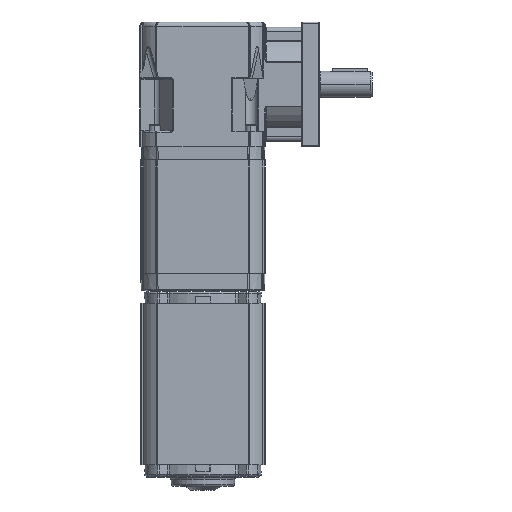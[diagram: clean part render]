
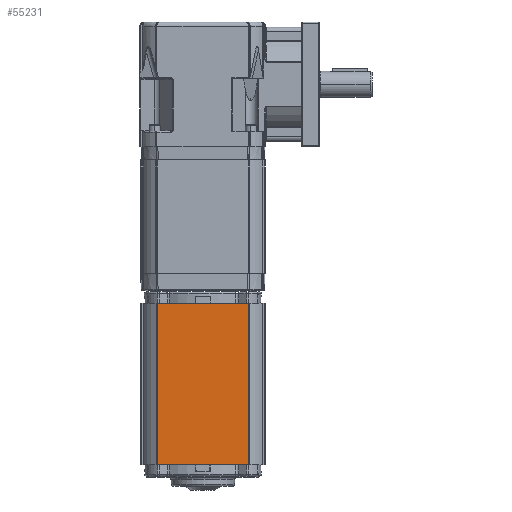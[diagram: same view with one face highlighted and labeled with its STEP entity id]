
A CAD part, front view. The second image highlights one B-rep face of the part: STEP entity #55231.
In plain terms, the highlighted planar face has unit normal (0, -1, 0).
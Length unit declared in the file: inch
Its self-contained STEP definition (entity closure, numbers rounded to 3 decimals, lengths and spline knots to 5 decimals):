
#364 = CARTESIAN_POINT ( 'NONE',  ( 1.325, -1.7765, -4.078 ) ) ;
#2861 = CARTESIAN_POINT ( 'NONE',  ( 1.305, -1.7765, -10.414 ) ) ;
#9013 = CARTESIAN_POINT ( 'NONE',  ( -1.305, -1.7765, -10.414 ) ) ;
#10897 = EDGE_CURVE ( 'NONE', #41482, #34389, #62521, .T. ) ;
#10979 = EDGE_CURVE ( 'NONE', #41482, #35695, #60285, .T. ) ;
#11399 = EDGE_CURVE ( 'NONE', #24420, #35695, #43303, .T. ) ;
#14236 = CARTESIAN_POINT ( 'NONE',  ( -1.305, -1.7765, -8.683 ) ) ;
#15257 = PLANE ( 'NONE',  #39572 ) ;
#16655 = DIRECTION ( 'NONE',  ( 1., 0., 0. ) ) ;
#20886 = CARTESIAN_POINT ( 'NONE',  ( 1.325, -1.7765, -10.414 ) ) ;
#22743 = VECTOR ( 'NONE', #16655, 39.37008 ) ;
#24299 = LINE ( 'NONE', #364, #22743 ) ;
#24420 = VERTEX_POINT ( 'NONE', #59535 ) ;
#24732 = CARTESIAN_POINT ( 'NONE',  ( 1.305, -1.7765, -8.683 ) ) ;
#26010 = DIRECTION ( 'NONE',  ( 0., 0., -1. ) ) ;
#29350 = ORIENTED_EDGE ( 'NONE', *, *, #10979, .F. ) ;
#29545 = CARTESIAN_POINT ( 'NONE',  ( 1.305, -1.7765, -4.078 ) ) ;
#29991 = ORIENTED_EDGE ( 'NONE', *, *, #60777, .F. ) ;
#30496 = VECTOR ( 'NONE', #34615, 39.37008 ) ;
#34389 = VERTEX_POINT ( 'NONE', #29545 ) ;
#34615 = DIRECTION ( 'NONE',  ( 0., 0., -1. ) ) ;
#35232 = VECTOR ( 'NONE', #53489, 39.37008 ) ;
#35695 = VERTEX_POINT ( 'NONE', #14236 ) ;
#37540 = VECTOR ( 'NONE', #38563, 39.37008 ) ;
#38563 = DIRECTION ( 'NONE',  ( 0., 0., 1. ) ) ;
#39572 = AXIS2_PLACEMENT_3D ( 'NONE', #20886, #54678, #26010 ) ;
#41482 = VERTEX_POINT ( 'NONE', #63430 ) ;
#43303 = LINE ( 'NONE', #9013, #30496 ) ;
#45425 = FACE_OUTER_BOUND ( 'NONE', #46207, .T. ) ;
#46207 = EDGE_LOOP ( 'NONE', ( #29350, #46299, #29991, #46470 ) ) ;
#46299 = ORIENTED_EDGE ( 'NONE', *, *, #10897, .T. ) ;
#46470 = ORIENTED_EDGE ( 'NONE', *, *, #11399, .T. ) ;
#53489 = DIRECTION ( 'NONE',  ( -1., 0., 0. ) ) ;
#54678 = DIRECTION ( 'NONE',  ( 0., -1., 0. ) ) ;
#55231 = ADVANCED_FACE ( 'NONE', ( #45425 ), #15257, .T. ) ;
#59535 = CARTESIAN_POINT ( 'NONE',  ( -1.305, -1.7765, -4.078 ) ) ;
#60285 = LINE ( 'NONE', #24732, #35232 ) ;
#60777 = EDGE_CURVE ( 'NONE', #24420, #34389, #24299, .T. ) ;
#62521 = LINE ( 'NONE', #2861, #37540 ) ;
#63430 = CARTESIAN_POINT ( 'NONE',  ( 1.305, -1.7765, -8.683 ) ) ;
